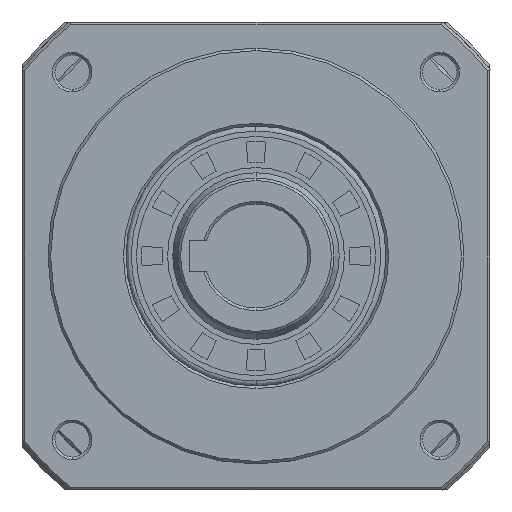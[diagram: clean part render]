
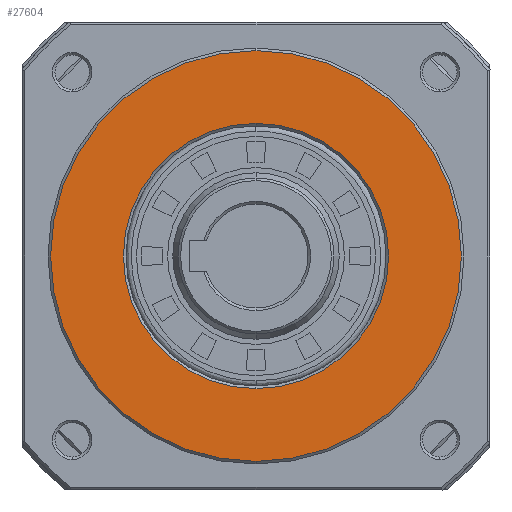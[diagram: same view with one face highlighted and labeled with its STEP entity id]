
A CAD part, left-side view. The second image highlights one B-rep face of the part: STEP entity #27604.
In plain terms, the highlighted planar face has unit normal (-1, 0, 0).
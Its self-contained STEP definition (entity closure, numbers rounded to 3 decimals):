
#2322 = CARTESIAN_POINT ( 'NONE',  ( 0., 0., -39.5 ) ) ;
#6603 = EDGE_CURVE ( 'NONE', #68872, #80252, #39416, .T. ) ;
#10104 = AXIS2_PLACEMENT_3D ( 'NONE', #32666, #13046, #60657 ) ;
#13046 = DIRECTION ( 'NONE',  ( -1., 0., 0. ) ) ;
#15212 = DIRECTION ( 'NONE',  ( -1., 0., 0. ) ) ;
#17511 = CARTESIAN_POINT ( 'NONE',  ( 0., 0., -25.5 ) ) ;
#20414 = CARTESIAN_POINT ( 'NONE',  ( 0., 0., 0. ) ) ;
#25018 = EDGE_CURVE ( 'NONE', #65434, #77720, #64777, .T. ) ;
#27604 = ADVANCED_FACE ( 'NONE', ( #52440, #86375 ), #83431, .F. ) ;
#29619 = DIRECTION ( 'NONE',  ( 1., 0., 0. ) ) ;
#30431 = AXIS2_PLACEMENT_3D ( 'NONE', #20414, #47463, #47748 ) ;
#32666 = CARTESIAN_POINT ( 'NONE',  ( 0., 0., 0. ) ) ;
#34382 = EDGE_LOOP ( 'NONE', ( #76524, #73411 ) ) ;
#39326 = AXIS2_PLACEMENT_3D ( 'NONE', #49983, #15212, #49687 ) ;
#39387 = CARTESIAN_POINT ( 'NONE',  ( 0., 0., 25.5 ) ) ;
#39416 = CIRCLE ( 'NONE', #10104, 39.5 ) ;
#39906 = EDGE_CURVE ( 'NONE', #77720, #65434, #78060, .T. ) ;
#39970 = AXIS2_PLACEMENT_3D ( 'NONE', #78974, #44787, #71830 ) ;
#44787 = DIRECTION ( 'NONE',  ( -1., 0., 0. ) ) ;
#46934 = ORIENTED_EDGE ( 'NONE', *, *, #39906, .F. ) ;
#47463 = DIRECTION ( 'NONE',  ( -1., 0., 0. ) ) ;
#47748 = DIRECTION ( 'NONE',  ( 0., 0., -1. ) ) ;
#48732 = CIRCLE ( 'NONE', #30431, 39.5 ) ;
#49687 = DIRECTION ( 'NONE',  ( 0., 0., 1. ) ) ;
#49983 = CARTESIAN_POINT ( 'NONE',  ( 0., 0., 0. ) ) ;
#52440 = FACE_BOUND ( 'NONE', #78351, .T. ) ;
#55247 = ORIENTED_EDGE ( 'NONE', *, *, #25018, .F. ) ;
#57599 = CARTESIAN_POINT ( 'NONE',  ( 0., -39.974, 39.974 ) ) ;
#60657 = DIRECTION ( 'NONE',  ( 0., 0., -1. ) ) ;
#60800 = EDGE_CURVE ( 'NONE', #80252, #68872, #48732, .T. ) ;
#62820 = AXIS2_PLACEMENT_3D ( 'NONE', #57599, #29619, #70614 ) ;
#64777 = CIRCLE ( 'NONE', #39326, 25.5 ) ;
#65434 = VERTEX_POINT ( 'NONE', #17511 ) ;
#68872 = VERTEX_POINT ( 'NONE', #2322 ) ;
#70614 = DIRECTION ( 'NONE',  ( 0., 0., -1. ) ) ;
#71830 = DIRECTION ( 'NONE',  ( 0., 0., 1. ) ) ;
#73411 = ORIENTED_EDGE ( 'NONE', *, *, #60800, .T. ) ;
#76272 = CARTESIAN_POINT ( 'NONE',  ( 0., 0., 39.5 ) ) ;
#76524 = ORIENTED_EDGE ( 'NONE', *, *, #6603, .T. ) ;
#77720 = VERTEX_POINT ( 'NONE', #39387 ) ;
#78060 = CIRCLE ( 'NONE', #39970, 25.5 ) ;
#78351 = EDGE_LOOP ( 'NONE', ( #46934, #55247 ) ) ;
#78974 = CARTESIAN_POINT ( 'NONE',  ( 0., 0., 0. ) ) ;
#80252 = VERTEX_POINT ( 'NONE', #76272 ) ;
#83431 = PLANE ( 'NONE',  #62820 ) ;
#86375 = FACE_OUTER_BOUND ( 'NONE', #34382, .T. ) ;
